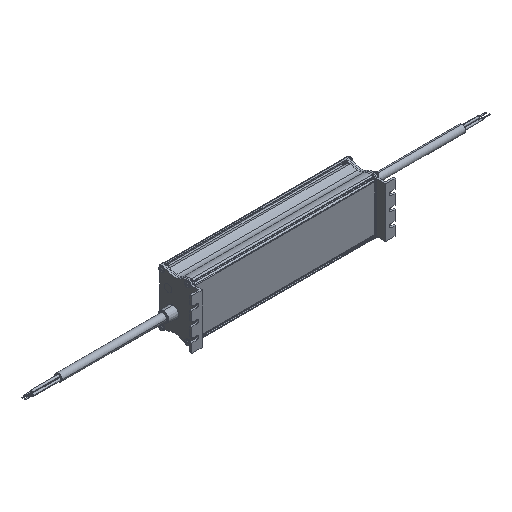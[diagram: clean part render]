
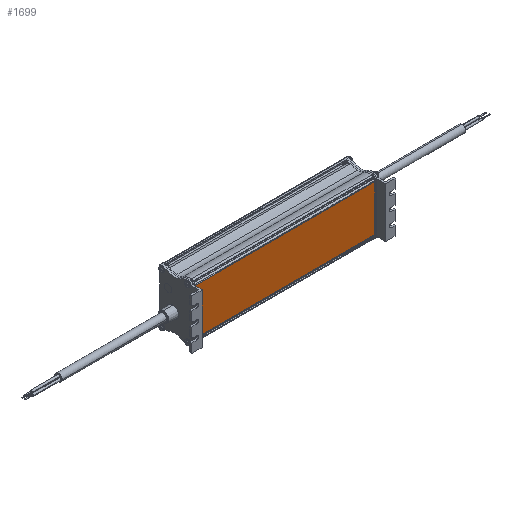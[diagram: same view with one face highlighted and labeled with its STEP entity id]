
A CAD part, isometric view. The second image highlights one B-rep face of the part: STEP entity #1699.
In plain terms, the highlighted planar face has unit normal (0, -1, 0).
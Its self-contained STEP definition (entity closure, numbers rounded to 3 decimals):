
#348=DIRECTION('',(0.,0.,-1.));
#349=VECTOR('',#348,49.366);
#350=CARTESIAN_POINT('',(107.5,-17.,24.683));
#351=LINE('',#350,#349);
#609=DIRECTION('',(1.,0.,0.));
#610=VECTOR('',#609,195.);
#611=CARTESIAN_POINT('',(-87.5,-17.,-24.683));
#612=LINE('',#611,#610);
#613=DIRECTION('',(1.,0.,0.));
#614=VECTOR('',#613,195.);
#615=CARTESIAN_POINT('',(-87.5,-17.,24.683));
#616=LINE('',#615,#614);
#617=DIRECTION('',(0.,0.,1.));
#618=VECTOR('',#617,49.366);
#619=CARTESIAN_POINT('',(-87.5,-17.,-24.683));
#620=LINE('',#619,#618);
#726=CARTESIAN_POINT('',(-87.5,-17.,24.683));
#728=VERTEX_POINT('',#726);
#729=CARTESIAN_POINT('',(-87.5,-17.,-24.683));
#730=VERTEX_POINT('',#729);
#918=CARTESIAN_POINT('',(107.5,-17.,24.683));
#919=VERTEX_POINT('',#918);
#920=CARTESIAN_POINT('',(107.5,-17.,-24.683));
#921=VERTEX_POINT('',#920);
#1688=CARTESIAN_POINT('',(-87.5,-17.,30.));
#1689=DIRECTION('',(0.,-1.,0.));
#1690=DIRECTION('',(0.,0.,-1.));
#1691=AXIS2_PLACEMENT_3D('',#1688,#1689,#1690);
#1692=PLANE('',#1691);
#1693=ORIENTED_EDGE('',*,*,#1079,.T.);
#1694=ORIENTED_EDGE('',*,*,#1148,.T.);
#1695=ORIENTED_EDGE('',*,*,#1680,.F.);
#1696=ORIENTED_EDGE('',*,*,#955,.T.);
#1697=EDGE_LOOP('',(#1693,#1694,#1695,#1696));
#1698=FACE_OUTER_BOUND('',#1697,.F.);
#1699=ADVANCED_FACE('',(#1698),#1692,.T.);
#955=EDGE_CURVE('',#730,#728,#620,.T.);
#1079=EDGE_CURVE('',#728,#919,#616,.T.);
#1148=EDGE_CURVE('',#919,#921,#351,.T.);
#1680=EDGE_CURVE('',#730,#921,#612,.T.);
